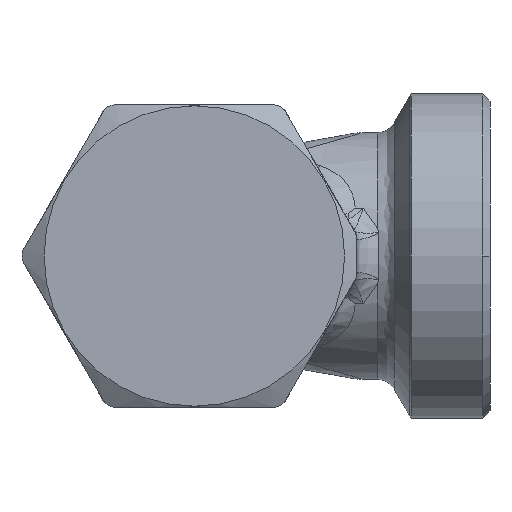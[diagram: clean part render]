
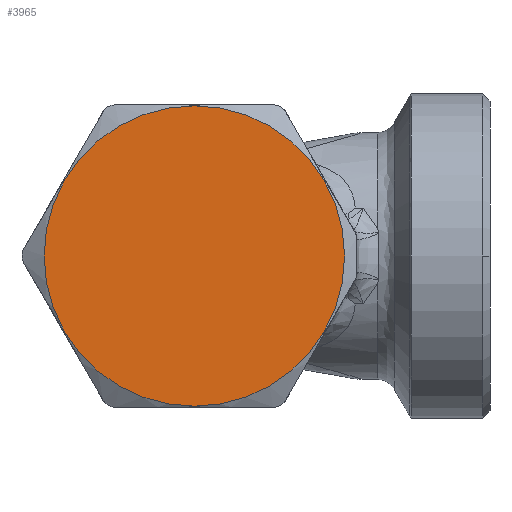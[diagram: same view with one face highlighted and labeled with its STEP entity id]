
A CAD part, front view. The second image highlights one B-rep face of the part: STEP entity #3965.
In plain terms, the highlighted planar face has unit normal (0, -1, 0).
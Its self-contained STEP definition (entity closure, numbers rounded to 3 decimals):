
#859 = CARTESIAN_POINT ( 'NONE',  ( 0., -28., 15.75 ) ) ;
#1202 = FACE_OUTER_BOUND ( 'NONE', #11938, .T. ) ;
#1727 = DIRECTION ( 'NONE',  ( 0., 0., 1. ) ) ;
#2222 = CARTESIAN_POINT ( 'NONE',  ( -15.75, -28., 0. ) ) ;
#2899 = DIRECTION ( 'NONE',  ( 0., 0., 1. ) ) ;
#3880 = DIRECTION ( 'NONE',  ( 0., 1., 0. ) ) ;
#3965 = ADVANCED_FACE ( 'NONE', ( #1202 ), #11690, .F. ) ;
#4465 = EDGE_CURVE ( 'NONE', #5263, #4736, #4765, .T. ) ;
#4619 = CIRCLE ( 'NONE', #6719, 15.75 ) ;
#4736 = VERTEX_POINT ( 'NONE', #859 ) ;
#4765 = CIRCLE ( 'NONE', #5092, 15.75 ) ;
#5092 = AXIS2_PLACEMENT_3D ( 'NONE', #9580, #3880, #2899 ) ;
#5263 = VERTEX_POINT ( 'NONE', #11686 ) ;
#5289 = ORIENTED_EDGE ( 'NONE', *, *, #4465, .F. ) ;
#5467 = DIRECTION ( 'NONE',  ( 0., 1., 0. ) ) ;
#6719 = AXIS2_PLACEMENT_3D ( 'NONE', #9047, #5467, #1727 ) ;
#6741 = ORIENTED_EDGE ( 'NONE', *, *, #9702, .F. ) ;
#7802 = DIRECTION ( 'NONE',  ( 0., 1., 0. ) ) ;
#9047 = CARTESIAN_POINT ( 'NONE',  ( 0., -28., 0. ) ) ;
#9580 = CARTESIAN_POINT ( 'NONE',  ( 0., -28., 0. ) ) ;
#9702 = EDGE_CURVE ( 'NONE', #4736, #5263, #4619, .T. ) ;
#11057 = AXIS2_PLACEMENT_3D ( 'NONE', #2222, #7802, #11615 ) ;
#11615 = DIRECTION ( 'NONE',  ( 0., 0., 1. ) ) ;
#11686 = CARTESIAN_POINT ( 'NONE',  ( 0., -28., -15.75 ) ) ;
#11690 = PLANE ( 'NONE',  #11057 ) ;
#11938 = EDGE_LOOP ( 'NONE', ( #6741, #5289 ) ) ;
